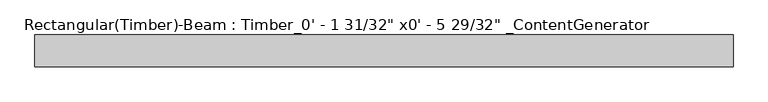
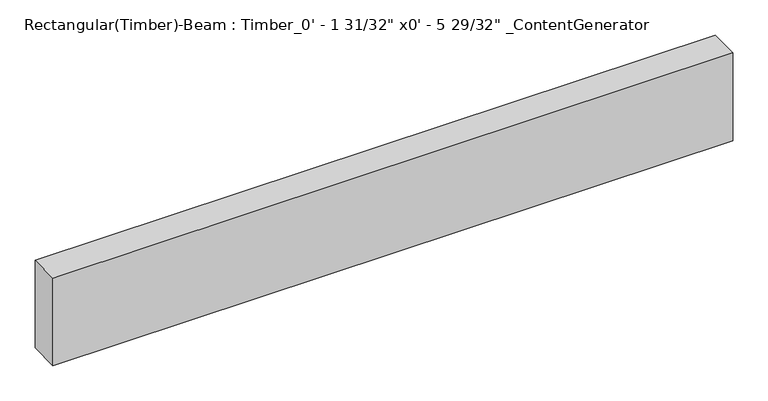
"""IFC4 building model written with IfcOpenShell, lengths in millimetres: beam geometry."""

from ifc_helpers import new_model, si_unit, frame, origin, place, context, project, spatial, polyline, outline, extrude, source, transform, mapped, element, save


def beam_2a9cae29(model_context):
    return source(origin(), model_context, "Body", "SweptSolid", [
        extrude(outline(polyline([(558.7949994, 25.4), (558.7949994, -25.4), (-558.7949994, -25.4), (-558.7949994, 25.4), (558.7949994, 25.4)])), frame((0.0, 0.0, -76.2), z_axis=(0.0, 0.0, 1.0), x_axis=(1.0, 0.0, 0.0)), (0.0, 0.0, 1.0), 152.4),
    ])


if __name__ == "__main__":
    model = new_model("IFC4")
    model_context = context("Model", 3, world=origin())
    ifc_project = project(units=[si_unit("LENGTHUNIT", "METRE", prefix="MILLI")], contexts=[model_context])
    site = spatial("IfcSite", under=ifc_project)
    building = spatial("IfcBuilding", under=site)
    placement = place(None, origin())
    beam_shape = beam_2a9cae29(model_context)
    element("IfcBeam", 1, ObjectType="Rectangular(Timber)-Beam : Timber_0' - 1 31/32\" x0' - 5 29/32\" _ContentGenerator", at=placement, inside=building, context=model_context, shape_type="MappedRepresentation", body=[
        mapped(beam_shape, transform((0.0, 0.0, 0.0), x_axis=(1.0, 0.0, 0.0), y_axis=(0.0, 1.0, 0.0), z_axis=(0.0, 0.0, 1.0))),
    ])
    save(model, "model.ifc")
